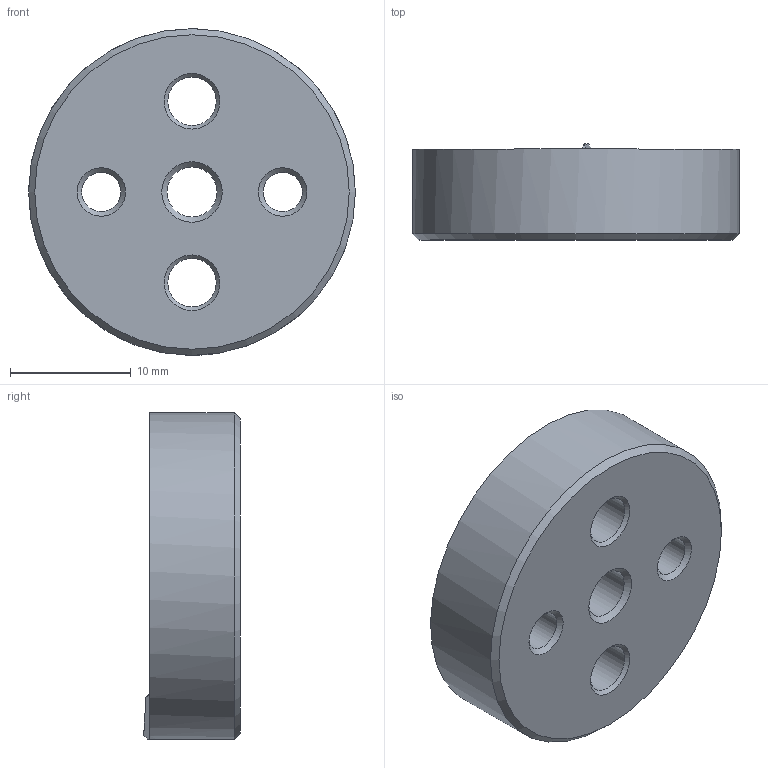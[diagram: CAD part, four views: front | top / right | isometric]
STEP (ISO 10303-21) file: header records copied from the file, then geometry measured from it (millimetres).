
FILE_DESCRIPTION( ( 'STEP AP203' ), '1' );
FILE_NAME( 'C:/Temp/Ganter_Step_05_03_2020/data/3_2/gn187_4/gn187_4_st/Serrated locking plate GN 187.4-27-48-C-ST.stp', '2020-03-13T05:25:42', ( 'License CC BY-ND 4.0' ), ( 'CADENAS' ), ' ', 'PARTsolutions', ' ' );
FILE_SCHEMA( ( 'CONFIG_CONTROL_DESIGN' ) );
Length unit declared in the file: millimetre
Products named in the file (1): _Serrated locking plate GN 187.4-27-48-C-ST
Bounding box: 27 x 7.98 x 27 mm (x, y, z)
Volume: 3618.3 mm3; surface area: 2072.6 mm2
Topology: 1 solids, 1 shells, 31 faces, 77 edges, 48 vertices
Faces by surface type: cone 15, cylinder 9, plane 7
Full cylindrical faces by diameter (mm): 3.242 x2, 4 x2, 4.134 x1, 19.5 x1, 27 x1
Entity records: 960 total; most frequent: CARTESIAN_POINT 241, DIRECTION 146, ORIENTED_EDGE 112, AXIS2_PLACEMENT_3D 70, EDGE_LOOP 59, EDGE_CURVE 56, VERTEX_POINT 45, FACE_OUTER_BOUND 38
